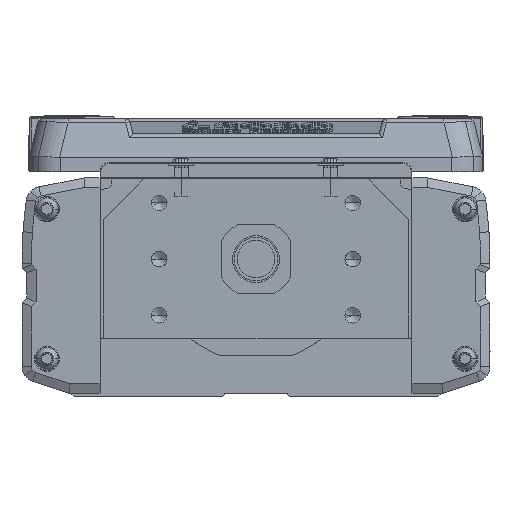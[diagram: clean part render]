
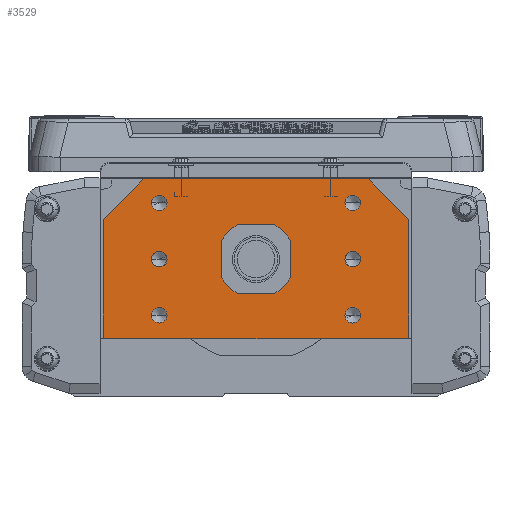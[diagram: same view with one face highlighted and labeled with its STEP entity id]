
A CAD part, left-side view. The second image highlights one B-rep face of the part: STEP entity #3529.
In plain terms, the highlighted planar face has unit normal (-1, 0, 0).
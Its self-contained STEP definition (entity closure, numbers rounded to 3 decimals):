
#3529=ADVANCED_FACE('',(#8753,#8754,#8755,#8756,#8757,#8758,#8759,#8760),#8761,.F.);
#8753=FACE_OUTER_BOUND('',#16213,.T.);
#8754=FACE_BOUND('',#16214,.T.);
#8755=FACE_BOUND('',#16215,.T.);
#8756=FACE_BOUND('',#16216,.T.);
#8757=FACE_BOUND('',#16217,.T.);
#8758=FACE_BOUND('',#16218,.T.);
#8759=FACE_BOUND('',#16219,.T.);
#8760=FACE_BOUND('',#16220,.T.);
#8761=PLANE('',#16221);
#16213=EDGE_LOOP('',(#27288,#27289,#27290,#27291,#27292,#27293,#27294,#27295));
#16214=EDGE_LOOP('',(#27296,#27297));
#16215=EDGE_LOOP('',(#27298,#27299));
#16216=EDGE_LOOP('',(#27300,#27301));
#16217=EDGE_LOOP('',(#27302,#27303));
#16218=EDGE_LOOP('',(#27304,#27305));
#16219=EDGE_LOOP('',(#27306,#27307));
#16220=EDGE_LOOP('',(#27308,#27309));
#16221=AXIS2_PLACEMENT_3D('',#27310,#27311,#27312);
#27288=ORIENTED_EDGE('',*,*,#44744,.F.);
#27289=ORIENTED_EDGE('',*,*,#46465,.F.);
#27290=ORIENTED_EDGE('',*,*,#46350,.F.);
#27291=ORIENTED_EDGE('',*,*,#45805,.F.);
#27292=ORIENTED_EDGE('',*,*,#46466,.F.);
#27293=ORIENTED_EDGE('',*,*,#46467,.F.);
#27294=ORIENTED_EDGE('',*,*,#46468,.F.);
#27295=ORIENTED_EDGE('',*,*,#46469,.F.);
#27296=ORIENTED_EDGE('',*,*,#46470,.T.);
#27297=ORIENTED_EDGE('',*,*,#44654,.T.);
#27298=ORIENTED_EDGE('',*,*,#46471,.T.);
#27299=ORIENTED_EDGE('',*,*,#45686,.T.);
#27300=ORIENTED_EDGE('',*,*,#46472,.T.);
#27301=ORIENTED_EDGE('',*,*,#46473,.T.);
#27302=ORIENTED_EDGE('',*,*,#46474,.T.);
#27303=ORIENTED_EDGE('',*,*,#46475,.T.);
#27304=ORIENTED_EDGE('',*,*,#46476,.T.);
#27305=ORIENTED_EDGE('',*,*,#46477,.T.);
#27306=ORIENTED_EDGE('',*,*,#46478,.T.);
#27307=ORIENTED_EDGE('',*,*,#46479,.T.);
#27308=ORIENTED_EDGE('',*,*,#46480,.F.);
#27309=ORIENTED_EDGE('',*,*,#46481,.F.);
#27310=CARTESIAN_POINT('',(0.,0.275,-2.548));
#27311=DIRECTION('',(1.0,0.,0.));
#27312=DIRECTION('',(0.,1.0,0.));
#44654=EDGE_CURVE('',#53138,#53136,#53139,.T.);
#44744=EDGE_CURVE('',#53301,#53302,#53303,.T.);
#45686=EDGE_CURVE('',#54943,#54941,#54944,.T.);
#45805=EDGE_CURVE('',#55145,#55147,#55148,.T.);
#46350=EDGE_CURVE('',#55147,#56049,#56050,.T.);
#46465=EDGE_CURVE('',#56049,#53301,#56226,.T.);
#46466=EDGE_CURVE('',#56227,#55145,#56228,.T.);
#46467=EDGE_CURVE('',#56229,#56227,#56230,.T.);
#46468=EDGE_CURVE('',#56231,#56229,#56232,.T.);
#46469=EDGE_CURVE('',#53302,#56231,#56233,.T.);
#46470=EDGE_CURVE('',#53136,#53138,#56234,.T.);
#46471=EDGE_CURVE('',#54941,#54943,#56235,.T.);
#46472=EDGE_CURVE('',#56236,#56237,#56238,.T.);
#46473=EDGE_CURVE('',#56237,#56236,#56239,.T.);
#46474=EDGE_CURVE('',#56240,#56241,#56242,.T.);
#46475=EDGE_CURVE('',#56241,#56240,#56243,.T.);
#46476=EDGE_CURVE('',#56244,#56245,#56246,.T.);
#46477=EDGE_CURVE('',#56245,#56244,#56247,.T.);
#46478=EDGE_CURVE('',#56248,#56249,#56250,.T.);
#46479=EDGE_CURVE('',#56249,#56248,#56251,.T.);
#46480=EDGE_CURVE('',#56252,#56253,#56254,.F.);
#46481=EDGE_CURVE('',#56253,#56252,#56255,.F.);
#53136=VERTEX_POINT('',#65366);
#53138=VERTEX_POINT('',#65369);
#53139=CIRCLE('',#65370,2.5);
#53301=VERTEX_POINT('',#65633);
#53302=VERTEX_POINT('',#65634);
#53303=LINE('',#65635,#65636);
#54941=VERTEX_POINT('',#68866);
#54943=VERTEX_POINT('',#68869);
#54944=CIRCLE('',#68870,2.5);
#55145=VERTEX_POINT('',#69122);
#55147=VERTEX_POINT('',#69125);
#55148=LINE('',#69126,#69127);
#56049=VERTEX_POINT('',#70334);
#56050=LINE('',#70335,#70336);
#56226=LINE('',#71301,#71302);
#56227=VERTEX_POINT('',#71303);
#56228=LINE('',#71304,#71305);
#56229=VERTEX_POINT('',#71306);
#56230=LINE('',#71307,#71308);
#56231=VERTEX_POINT('',#71309);
#56232=LINE('',#71310,#71311);
#56233=LINE('',#71312,#71313);
#56234=CIRCLE('',#71314,2.5);
#56235=CIRCLE('',#71315,2.5);
#56236=VERTEX_POINT('',#71316);
#56237=VERTEX_POINT('',#71317);
#56238=CIRCLE('',#71318,2.5);
#56239=CIRCLE('',#71319,2.5);
#56240=VERTEX_POINT('',#71320);
#56241=VERTEX_POINT('',#71321);
#56242=CIRCLE('',#71322,2.5);
#56243=CIRCLE('',#71323,2.5);
#56244=VERTEX_POINT('',#71324);
#56245=VERTEX_POINT('',#71325);
#56246=CIRCLE('',#71326,2.5);
#56247=CIRCLE('',#71327,2.5);
#56248=VERTEX_POINT('',#71328);
#56249=VERTEX_POINT('',#71329);
#56250=CIRCLE('',#71330,2.5);
#56251=CIRCLE('',#71331,2.5);
#56252=VERTEX_POINT('',#71332);
#56253=VERTEX_POINT('',#71333);
#56254=CIRCLE('',#71334,7.5);
#56255=CIRCLE('',#71335,7.5);
#65366=CARTESIAN_POINT('',(0.,33.5,-18.));
#65369=CARTESIAN_POINT('',(0.,28.5,-18.));
#65370=AXIS2_PLACEMENT_3D('',#82488,#82489,#82490);
#65633=CARTESIAN_POINT('',(0.,49.,12.7));
#65634=CARTESIAN_POINT('',(0.,36.,25.7));
#65635=CARTESIAN_POINT('',(0.,37.381,24.319));
#65636=VECTOR('',#82613,10.);
#68866=CARTESIAN_POINT('',(0.,-33.5,-18.));
#68869=CARTESIAN_POINT('',(0.,-28.5,-18.));
#68870=AXIS2_PLACEMENT_3D('',#83875,#83876,#83877);
#69122=CARTESIAN_POINT('',(0.,-48.5,-25.5));
#69125=CARTESIAN_POINT('',(0.,48.5,-25.5));
#69126=CARTESIAN_POINT('',(0.,0.,-25.5));
#69127=VECTOR('',#84053,10.0);
#70334=CARTESIAN_POINT('',(0.,49.,-25.));
#70335=CARTESIAN_POINT('',(0.,48.5,-25.5));
#70336=VECTOR('',#84841,10.0);
#71301=CARTESIAN_POINT('',(0.,49.,-25.));
#71302=VECTOR('',#84960,10.0);
#71303=CARTESIAN_POINT('',(0.,-49.,-25.));
#71304=CARTESIAN_POINT('',(0.,-49.,-25.));
#71305=VECTOR('',#84961,10.0);
#71306=CARTESIAN_POINT('',(0.,-49.,12.7));
#71307=CARTESIAN_POINT('',(0.,-49.,-14.));
#71308=VECTOR('',#84962,10.0);
#71309=CARTESIAN_POINT('',(0.,-36.,25.7));
#71310=CARTESIAN_POINT('',(0.,-37.243,24.457));
#71311=VECTOR('',#84963,10.0);
#71312=CARTESIAN_POINT('',(0.,34.5,25.7));
#71313=VECTOR('',#84964,10.0);
#71314=AXIS2_PLACEMENT_3D('',#84965,#84966,#84967);
#71315=AXIS2_PLACEMENT_3D('',#84968,#84969,#84970);
#71316=CARTESIAN_POINT('',(0.,33.5,18.));
#71317=CARTESIAN_POINT('',(0.,28.5,18.));
#71318=AXIS2_PLACEMENT_3D('',#84971,#84972,#84973);
#71319=AXIS2_PLACEMENT_3D('',#84974,#84975,#84976);
#71320=CARTESIAN_POINT('',(0.,-33.5,18.));
#71321=CARTESIAN_POINT('',(0.,-28.5,18.));
#71322=AXIS2_PLACEMENT_3D('',#84977,#84978,#84979);
#71323=AXIS2_PLACEMENT_3D('',#84980,#84981,#84982);
#71324=CARTESIAN_POINT('',(0.,33.5,0.));
#71325=CARTESIAN_POINT('',(0.,28.5,0.));
#71326=AXIS2_PLACEMENT_3D('',#84983,#84984,#84985);
#71327=AXIS2_PLACEMENT_3D('',#84986,#84987,#84988);
#71328=CARTESIAN_POINT('',(0.,-33.5,0.));
#71329=CARTESIAN_POINT('',(0.,-28.5,0.));
#71330=AXIS2_PLACEMENT_3D('',#84989,#84990,#84991);
#71331=AXIS2_PLACEMENT_3D('',#84992,#84993,#84994);
#71332=CARTESIAN_POINT('',(0.,7.5,0.));
#71333=CARTESIAN_POINT('',(0.,-7.5,0.));
#71334=AXIS2_PLACEMENT_3D('',#84995,#84996,#84997);
#71335=AXIS2_PLACEMENT_3D('',#84998,#84999,#85000);
#82488=CARTESIAN_POINT('',(0.,31.,-18.));
#82489=DIRECTION('',(1.0,0.,0.));
#82490=DIRECTION('',(0.,1.0,0.));
#82613=DIRECTION('',(0.,-0.707,0.707));
#83875=CARTESIAN_POINT('',(0.,-31.,-18.));
#83876=DIRECTION('',(1.0,0.,0.));
#83877=DIRECTION('',(0.,-1.0,0.));
#84053=DIRECTION('',(0.,1.0,0.));
#84841=DIRECTION('',(0.,0.707,0.707));
#84960=DIRECTION('',(0.,0.,1.0));
#84961=DIRECTION('',(0.,0.707,-0.707));
#84962=DIRECTION('',(0.,0.,-1.0));
#84963=DIRECTION('',(0.,-0.707,-0.707));
#84964=DIRECTION('',(0.,-1.0,0.));
#84965=CARTESIAN_POINT('',(0.,31.,-18.));
#84966=DIRECTION('',(1.0,0.,0.));
#84967=DIRECTION('',(0.,1.0,0.));
#84968=CARTESIAN_POINT('',(0.,-31.,-18.));
#84969=DIRECTION('',(1.0,0.,0.));
#84970=DIRECTION('',(0.,-1.0,0.));
#84971=CARTESIAN_POINT('',(0.,31.,18.));
#84972=DIRECTION('',(1.0,0.,0.));
#84973=DIRECTION('',(0.,1.0,0.));
#84974=CARTESIAN_POINT('',(0.,31.,18.));
#84975=DIRECTION('',(1.0,0.,0.));
#84976=DIRECTION('',(0.,1.0,0.));
#84977=CARTESIAN_POINT('',(0.,-31.,18.));
#84978=DIRECTION('',(1.0,0.,0.));
#84979=DIRECTION('',(0.,-1.0,0.));
#84980=CARTESIAN_POINT('',(0.,-31.,18.));
#84981=DIRECTION('',(1.0,0.,0.));
#84982=DIRECTION('',(0.,-1.0,0.));
#84983=CARTESIAN_POINT('',(0.,31.,0.));
#84984=DIRECTION('',(1.0,0.,0.));
#84985=DIRECTION('',(0.,1.0,0.));
#84986=CARTESIAN_POINT('',(0.,31.,0.));
#84987=DIRECTION('',(1.0,0.,0.));
#84988=DIRECTION('',(0.,1.0,0.));
#84989=CARTESIAN_POINT('',(0.,-31.,0.));
#84990=DIRECTION('',(1.0,0.,0.));
#84991=DIRECTION('',(0.,-1.0,0.));
#84992=CARTESIAN_POINT('',(0.,-31.,0.));
#84993=DIRECTION('',(1.0,0.,0.));
#84994=DIRECTION('',(0.,-1.0,0.));
#84995=CARTESIAN_POINT('',(0.,0.,0.));
#84996=DIRECTION('',(1.0,0.,0.));
#84997=DIRECTION('',(0.,-1.0,0.));
#84998=CARTESIAN_POINT('',(0.,0.,0.));
#84999=DIRECTION('',(1.0,0.,0.));
#85000=DIRECTION('',(0.,-1.0,0.));
